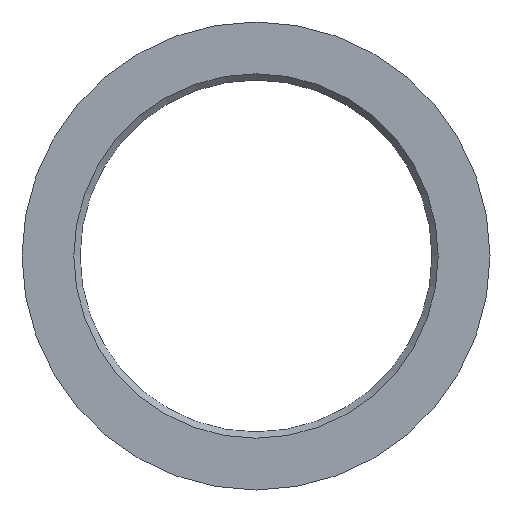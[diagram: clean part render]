
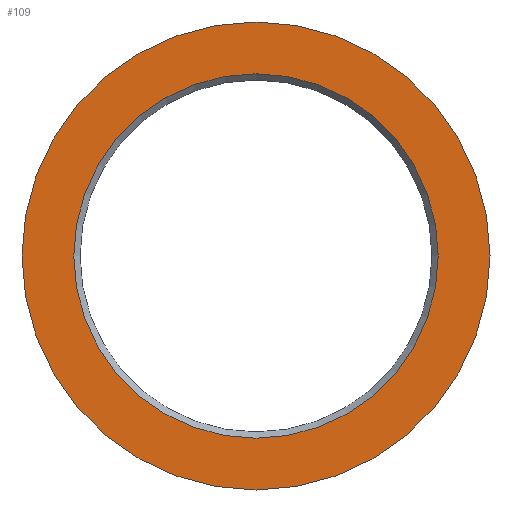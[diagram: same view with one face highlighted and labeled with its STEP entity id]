
A CAD part, front view. The second image highlights one B-rep face of the part: STEP entity #109.
In plain terms, the highlighted planar face has unit normal (0, -1, 0).
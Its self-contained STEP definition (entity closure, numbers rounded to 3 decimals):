
#16=FACE_BOUND('',#34,.T.);
#18=PLANE('',#144);
#25=FACE_OUTER_BOUND('',#33,.T.);
#33=EDGE_LOOP('',(#90));
#34=EDGE_LOOP('',(#91));
#51=CIRCLE('',#143,29.05);
#52=CIRCLE('',#145,37.3);
#59=VERTEX_POINT('',#202);
#60=VERTEX_POINT('',#206);
#70=EDGE_CURVE('',#59,#59,#51,.T.);
#71=EDGE_CURVE('',#60,#60,#52,.T.);
#90=ORIENTED_EDGE('',*,*,#71,.F.);
#91=ORIENTED_EDGE('',*,*,#70,.F.);
#109=ADVANCED_FACE('',(#25,#16),#18,.F.);
#143=AXIS2_PLACEMENT_3D('',#204,#171,#172);
#144=AXIS2_PLACEMENT_3D('',#205,#173,#174);
#145=AXIS2_PLACEMENT_3D('',#207,#175,#176);
#171=DIRECTION('center_axis',(0.,-1.,0.));
#172=DIRECTION('ref_axis',(1.,0.,0.));
#173=DIRECTION('center_axis',(0.,1.,0.));
#174=DIRECTION('ref_axis',(0.,0.,1.));
#175=DIRECTION('center_axis',(0.,1.,0.));
#176=DIRECTION('ref_axis',(-1.,0.,0.));
#202=CARTESIAN_POINT('',(-29.05,0.,0.));
#204=CARTESIAN_POINT('Origin',(0.,0.,0.));
#205=CARTESIAN_POINT('Origin',(0.,0.,0.));
#206=CARTESIAN_POINT('',(-37.3,0.,0.));
#207=CARTESIAN_POINT('Origin',(0.,0.,0.));
